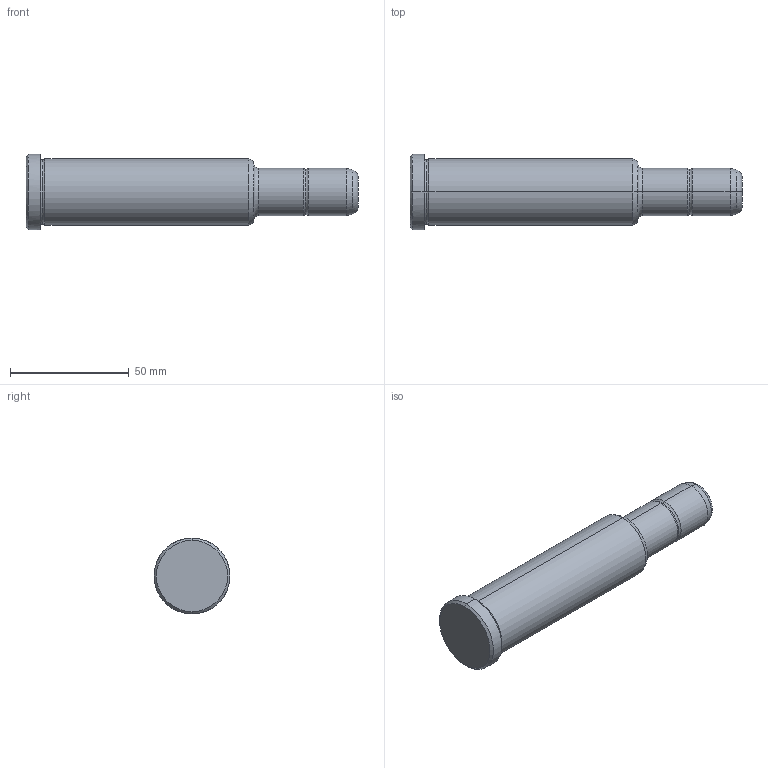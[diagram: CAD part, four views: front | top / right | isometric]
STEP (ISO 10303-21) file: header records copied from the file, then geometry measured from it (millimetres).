
FILE_DESCRIPTION(('CATIA V5 STEP Exchange'),'2;1');
FILE_NAME('C:\Users\Utente\Desktop\IO LAVORO\3D X SITO CF\X SITO\PLASTICA\351\351-20X96X140.stp','2021-08-27T13:04:06+00:00',('none'),('none'),'CATIA Version 5 Release 20 GA (IN-10)','CATIA V5 STEP AP203','none');
FILE_SCHEMA(('CONFIG_CONTROL_DESIGN'));
Length unit declared in the file: millimetre
Products named in the file (1): 351-20X96X140
Bounding box: 140 x 32 x 32 mm (x, y, z)
Volume: 73617 mm3; surface area: 12612 mm2
Topology: 1 solids, 1 shells, 30 faces, 86 edges, 60 vertices
Faces by surface type: torus 12, cylinder 8, cone 6, plane 4
Entity records: 1112 total; most frequent: CARTESIAN_POINT 289, ORIENTED_EDGE 172, DIRECTION 138, AXIS2_PLACEMENT_3D 95, EDGE_CURVE 86, CIRCLE 64, VERTEX_POINT 60, EDGE_LOOP 32
